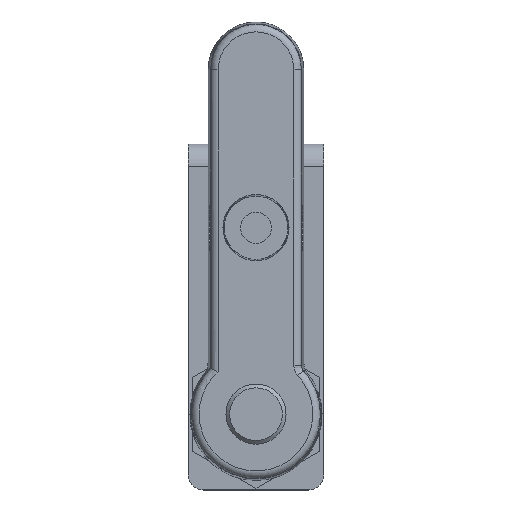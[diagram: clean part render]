
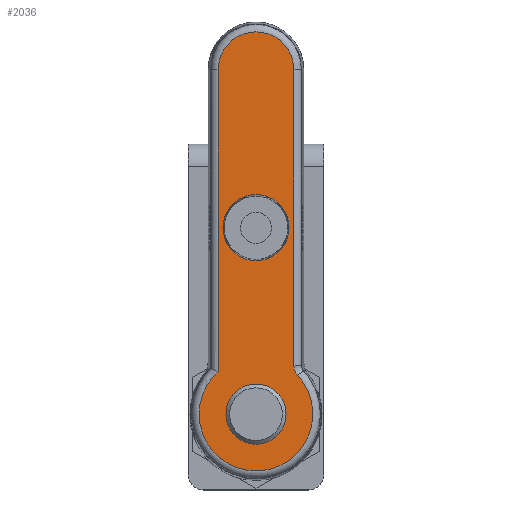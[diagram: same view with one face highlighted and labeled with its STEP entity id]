
A CAD part, top view. The second image highlights one B-rep face of the part: STEP entity #2036.
In plain terms, the highlighted planar face has unit normal (0, 0, 1).
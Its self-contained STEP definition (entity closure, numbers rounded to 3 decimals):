
#1800=CARTESIAN_POINT('',(0.,29.2,21.2));
#1801=VERTEX_POINT('',#1800);
#1802=CARTESIAN_POINT('',(0.,24.8,21.2));
#1803=DIRECTION('',(0.0,0.0,-1.0));
#1804=DIRECTION('',(0.0,-1.0,0.0));
#1805=AXIS2_PLACEMENT_3D('',#1802,#1803,#1804);
#1806=CIRCLE('',#1805,4.4);
#1807=EDGE_CURVE('',#1801,#1801,#1806,.T.);
#1972=CARTESIAN_POINT('',(0.,0.,21.2));
#1973=DIRECTION('',(0.0,0.0,-1.0));
#1974=DIRECTION('',(0.0,-1.0,0.0));
#1975=AXIS2_PLACEMENT_3D('',#1972,#1973,#1974);
#1976=PLANE('',#1975);
#1977=CARTESIAN_POINT('',(5.033,6.475,21.2));
#1978=VERTEX_POINT('',#1977);
#1979=CARTESIAN_POINT('',(5.562,5.12,21.2));
#1980=VERTEX_POINT('',#1979);
#1981=CARTESIAN_POINT('',(5.033,6.475,21.2));
#1982=CARTESIAN_POINT('',(5.033,5.982,21.2));
#1983=CARTESIAN_POINT('',(5.228,5.483,21.2));
#1984=CARTESIAN_POINT('',(5.562,5.12,21.2));
#1985=B_SPLINE_CURVE_WITH_KNOTS('',3,(#1981,#1982,#1983,#1984),.UNSPECIFIED.,.F.,.U.,(4,4),(0.,0.148),.UNSPECIFIED.);
#1986=EDGE_CURVE('',#1978,#1980,#1985,.T.);
#1987=ORIENTED_EDGE('',*,*,#1986,.F.);
#1988=CARTESIAN_POINT('',(5.033,45.8,21.2));
#1989=VERTEX_POINT('',#1988);
#1990=CARTESIAN_POINT('',(5.033,45.8,21.2));
#1991=DIRECTION('',(0.0,-1.0,0.0));
#1992=VECTOR('',#1991,39.325);
#1993=LINE('',#1990,#1992);
#1994=EDGE_CURVE('',#1989,#1978,#1993,.T.);
#1995=ORIENTED_EDGE('',*,*,#1994,.F.);
#1996=CARTESIAN_POINT('',(-5.033,45.8,21.2));
#1997=VERTEX_POINT('',#1996);
#1998=CARTESIAN_POINT('',(0.,45.8,21.2));
#1999=DIRECTION('',(0.0,0.0,-1.0));
#2000=DIRECTION('',(0.0,1.0,0.0));
#2001=AXIS2_PLACEMENT_3D('',#1998,#1999,#2000);
#2002=CIRCLE('',#2001,5.033);
#2003=EDGE_CURVE('',#1997,#1989,#2002,.T.);
#2004=ORIENTED_EDGE('',*,*,#2003,.F.);
#2005=CARTESIAN_POINT('',(-5.033,5.641,21.2));
#2006=VERTEX_POINT('',#2005);
#2007=CARTESIAN_POINT('',(-5.033,5.641,21.2));
#2008=DIRECTION('',(0.0,1.0,0.0));
#2009=VECTOR('',#2008,40.159);
#2010=LINE('',#2007,#2009);
#2011=EDGE_CURVE('',#2006,#1997,#2010,.T.);
#2012=ORIENTED_EDGE('',*,*,#2011,.F.);
#2013=CARTESIAN_POINT('',(0.,0.,21.2));
#2014=DIRECTION('',(0.0,0.0,-1.0));
#2015=DIRECTION('',(0.0,-1.0,0.0));
#2016=AXIS2_PLACEMENT_3D('',#2013,#2014,#2015);
#2017=CIRCLE('',#2016,7.56);
#2018=EDGE_CURVE('',#1980,#2006,#2017,.T.);
#2019=ORIENTED_EDGE('',*,*,#2018,.F.);
#2020=EDGE_LOOP('',(#1987,#1995,#2004,#2012,#2019));
#2021=FACE_OUTER_BOUND('',#2020,.T.);
#2022=CARTESIAN_POINT('',(0.,4.0,21.2));
#2023=VERTEX_POINT('',#2022);
#2024=CARTESIAN_POINT('',(0.,0.,21.2));
#2025=DIRECTION('',(0.0,0.0,-1.0));
#2026=DIRECTION('',(0.0,-1.0,0.0));
#2027=AXIS2_PLACEMENT_3D('',#2024,#2025,#2026);
#2028=CIRCLE('',#2027,4.0);
#2029=EDGE_CURVE('',#2023,#2023,#2028,.T.);
#2030=ORIENTED_EDGE('',*,*,#2029,.T.);
#2031=EDGE_LOOP('',(#2030));
#2032=FACE_BOUND('',#2031,.T.);
#2033=ORIENTED_EDGE('',*,*,#1807,.T.);
#2034=EDGE_LOOP('',(#2033));
#2035=FACE_BOUND('',#2034,.T.);
#2036=ADVANCED_FACE('',(#2021,#2032,#2035),#1976,.F.);
